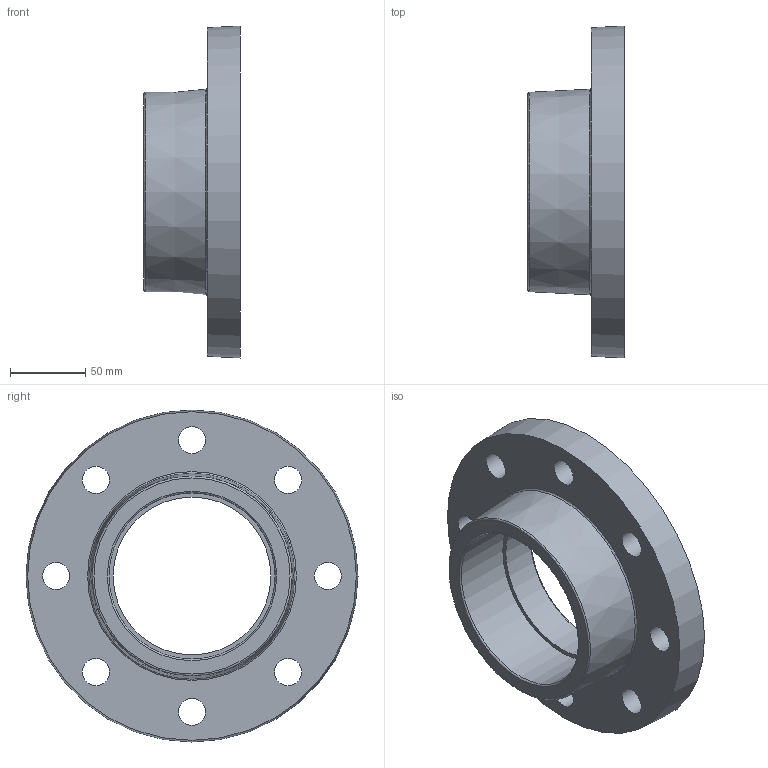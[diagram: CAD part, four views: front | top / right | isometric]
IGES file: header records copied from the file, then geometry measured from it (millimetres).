
Global section: file name: 059201040.ipt; native system: Autodesk Inventor 2015; preprocessor: unknown; author: KIM; date: 20171207.170017; units: millimetre
Bounding box: 64 x 220 x 220 mm (x, y, z)
Volume: 789740.9 mm3; surface area: 117959.7 mm2
Topology: 1 solids, 1 shells, 32 faces, 74 edges, 52 vertices
Faces by surface type: revolution 17, plane 10, cylinder 3, cone 2
Full cylindrical faces by diameter (mm): 108.97 x1, 113.37 x1, 117.77 x1
